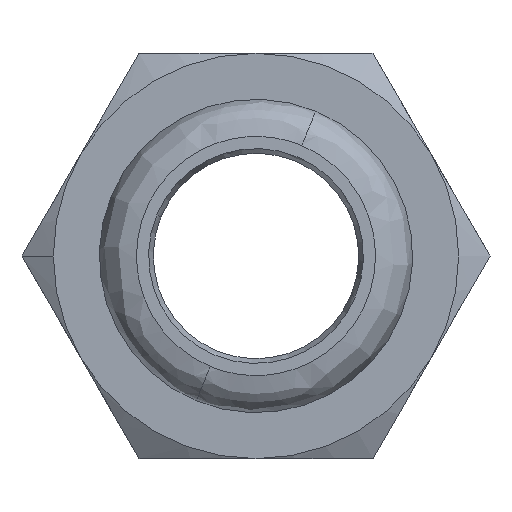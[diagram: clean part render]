
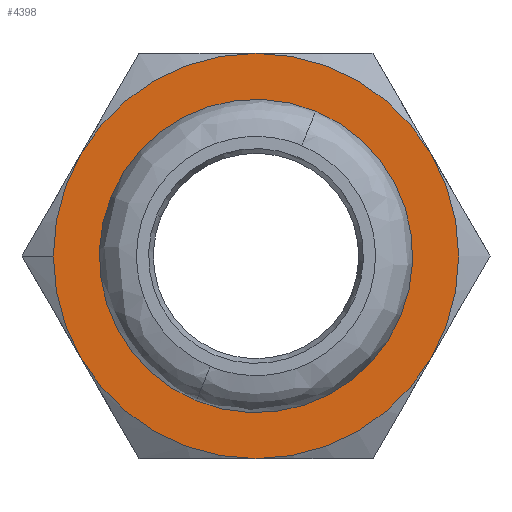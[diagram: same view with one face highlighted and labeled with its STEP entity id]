
A CAD part, left-side view. The second image highlights one B-rep face of the part: STEP entity #4398.
In plain terms, the highlighted planar face has unit normal (-1, 0, 0) as drawn and (0, 1, 0) by its records, which use the part's own axes.
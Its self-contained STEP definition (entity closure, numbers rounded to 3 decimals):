
#196 = DIRECTION ( 'NONE',  ( 0., 1., 0. ) ) ;
#255 = DIRECTION ( 'NONE',  ( 0., -1., 0. ) ) ;
#259 = CARTESIAN_POINT ( 'NONE',  ( 12.99, 15., 7.5 ) ) ;
#269 = DIRECTION ( 'NONE',  ( 0., 0., -1. ) ) ;
#270 = CIRCLE ( 'NONE', #4033, 10.8 ) ;
#279 = EDGE_CURVE ( 'NONE', #2735, #4570, #4852, .T. ) ;
#338 = CARTESIAN_POINT ( 'NONE',  ( 0., 15., 0. ) ) ;
#350 = DIRECTION ( 'NONE',  ( 1., 0., 0. ) ) ;
#465 = VERTEX_POINT ( 'NONE', #1796 ) ;
#502 = EDGE_CURVE ( 'NONE', #1801, #1224, #270, .T. ) ;
#548 = CARTESIAN_POINT ( 'NONE',  ( 0., 15., -15. ) ) ;
#560 = EDGE_CURVE ( 'NONE', #4069, #465, #1363, .T. ) ;
#561 = CARTESIAN_POINT ( 'NONE',  ( 0., 15., 0. ) ) ;
#575 = AXIS2_PLACEMENT_3D ( 'NONE', #2426, #3667, #959 ) ;
#592 = CARTESIAN_POINT ( 'NONE',  ( 15., 15., 0. ) ) ;
#635 = AXIS2_PLACEMENT_3D ( 'NONE', #3786, #4545, #1542 ) ;
#694 = CARTESIAN_POINT ( 'NONE',  ( 0., 15., 0. ) ) ;
#874 = ORIENTED_EDGE ( 'NONE', *, *, #4839, .T. ) ;
#886 = AXIS2_PLACEMENT_3D ( 'NONE', #3633, #196, #1405 ) ;
#927 = ORIENTED_EDGE ( 'NONE', *, *, #502, .T. ) ;
#949 = ORIENTED_EDGE ( 'NONE', *, *, #560, .T. ) ;
#959 = DIRECTION ( 'NONE',  ( 0., 0., 1. ) ) ;
#1044 = DIRECTION ( 'NONE',  ( 0., 1., 0. ) ) ;
#1125 = CARTESIAN_POINT ( 'NONE',  ( 0., 15., 0. ) ) ;
#1149 = DIRECTION ( 'NONE',  ( 0., 1., 0. ) ) ;
#1224 = VERTEX_POINT ( 'NONE', #2390 ) ;
#1286 = ORIENTED_EDGE ( 'NONE', *, *, #3494, .T. ) ;
#1323 = ORIENTED_EDGE ( 'NONE', *, *, #3121, .T. ) ;
#1363 = CIRCLE ( 'NONE', #635, 15. ) ;
#1385 = FACE_OUTER_BOUND ( 'NONE', #2001, .T. ) ;
#1391 = VERTEX_POINT ( 'NONE', #548 ) ;
#1405 = DIRECTION ( 'NONE',  ( 1., 0., 0. ) ) ;
#1429 = FACE_BOUND ( 'NONE', #4196, .T. ) ;
#1477 = CARTESIAN_POINT ( 'NONE',  ( 0., 15., 0. ) ) ;
#1494 = AXIS2_PLACEMENT_3D ( 'NONE', #1477, #4511, #350 ) ;
#1510 = DIRECTION ( 'NONE',  ( 0., 1., 0. ) ) ;
#1542 = DIRECTION ( 'NONE',  ( 0., 0., -1. ) ) ;
#1796 = CARTESIAN_POINT ( 'NONE',  ( 0., 15., 15. ) ) ;
#1801 = VERTEX_POINT ( 'NONE', #2008 ) ;
#1871 = CARTESIAN_POINT ( 'NONE',  ( -12.99, 15., -7.5 ) ) ;
#1873 = DIRECTION ( 'NONE',  ( 0., 1., 0. ) ) ;
#1978 = CIRCLE ( 'NONE', #3819, 15. ) ;
#2001 = EDGE_LOOP ( 'NONE', ( #949, #1323, #2646, #2958, #3913, #874, #2727 ) ) ;
#2008 = CARTESIAN_POINT ( 'NONE',  ( 0., 15., 10.8 ) ) ;
#2034 = DIRECTION ( 'NONE',  ( 0., -1., 0. ) ) ;
#2198 = EDGE_CURVE ( 'NONE', #4039, #4069, #3529, .T. ) ;
#2227 = AXIS2_PLACEMENT_3D ( 'NONE', #694, #1044, #269 ) ;
#2244 = EDGE_CURVE ( 'NONE', #4570, #4119, #4527, .T. ) ;
#2264 = CARTESIAN_POINT ( 'NONE',  ( -12.99, 15., 7.5 ) ) ;
#2329 = AXIS2_PLACEMENT_3D ( 'NONE', #4933, #1149, #3750 ) ;
#2390 = CARTESIAN_POINT ( 'NONE',  ( 0., 15., -10.8 ) ) ;
#2426 = CARTESIAN_POINT ( 'NONE',  ( 0., 15., 0. ) ) ;
#2596 = CARTESIAN_POINT ( 'NONE',  ( 0., 15., 0. ) ) ;
#2646 = ORIENTED_EDGE ( 'NONE', *, *, #279, .T. ) ;
#2650 = DIRECTION ( 'NONE',  ( 0., 0., -1. ) ) ;
#2727 = ORIENTED_EDGE ( 'NONE', *, *, #2198, .T. ) ;
#2735 = VERTEX_POINT ( 'NONE', #259 ) ;
#2768 = CARTESIAN_POINT ( 'NONE',  ( 12.99, 15., -7.5 ) ) ;
#2875 = CIRCLE ( 'NONE', #4776, 10.8 ) ;
#2958 = ORIENTED_EDGE ( 'NONE', *, *, #2244, .T. ) ;
#3076 = DIRECTION ( 'NONE',  ( 0., 0., -1. ) ) ;
#3121 = EDGE_CURVE ( 'NONE', #465, #2735, #3285, .T. ) ;
#3244 = PLANE ( 'NONE',  #575 ) ;
#3275 = EDGE_CURVE ( 'NONE', #4119, #1391, #1978, .T. ) ;
#3285 = CIRCLE ( 'NONE', #2227, 15. ) ;
#3494 = EDGE_CURVE ( 'NONE', #1224, #1801, #2875, .T. ) ;
#3529 = CIRCLE ( 'NONE', #3884, 15. ) ;
#3633 = CARTESIAN_POINT ( 'NONE',  ( 0., 15., 0. ) ) ;
#3667 = DIRECTION ( 'NONE',  ( 0., 1., 0. ) ) ;
#3750 = DIRECTION ( 'NONE',  ( 1., 0., 0. ) ) ;
#3786 = CARTESIAN_POINT ( 'NONE',  ( 0., 15., 0. ) ) ;
#3819 = AXIS2_PLACEMENT_3D ( 'NONE', #1125, #1873, #3076 ) ;
#3838 = CIRCLE ( 'NONE', #2329, 15. ) ;
#3884 = AXIS2_PLACEMENT_3D ( 'NONE', #338, #1510, #2650 ) ;
#3913 = ORIENTED_EDGE ( 'NONE', *, *, #3275, .T. ) ;
#3953 = DIRECTION ( 'NONE',  ( 0., 0., 1. ) ) ;
#4033 = AXIS2_PLACEMENT_3D ( 'NONE', #2596, #255, #4457 ) ;
#4039 = VERTEX_POINT ( 'NONE', #1871 ) ;
#4069 = VERTEX_POINT ( 'NONE', #2264 ) ;
#4119 = VERTEX_POINT ( 'NONE', #2768 ) ;
#4196 = EDGE_LOOP ( 'NONE', ( #927, #1286 ) ) ;
#4398 = ADVANCED_FACE ( 'NONE', ( #1385, #1429 ), #3244, .T. ) ;
#4457 = DIRECTION ( 'NONE',  ( 0., 0., 1. ) ) ;
#4511 = DIRECTION ( 'NONE',  ( 0., 1., 0. ) ) ;
#4527 = CIRCLE ( 'NONE', #1494, 15. ) ;
#4545 = DIRECTION ( 'NONE',  ( 0., 1., 0. ) ) ;
#4570 = VERTEX_POINT ( 'NONE', #592 ) ;
#4776 = AXIS2_PLACEMENT_3D ( 'NONE', #561, #2034, #3953 ) ;
#4839 = EDGE_CURVE ( 'NONE', #1391, #4039, #3838, .T. ) ;
#4852 = CIRCLE ( 'NONE', #886, 15. ) ;
#4933 = CARTESIAN_POINT ( 'NONE',  ( 0., 15., 0. ) ) ;
